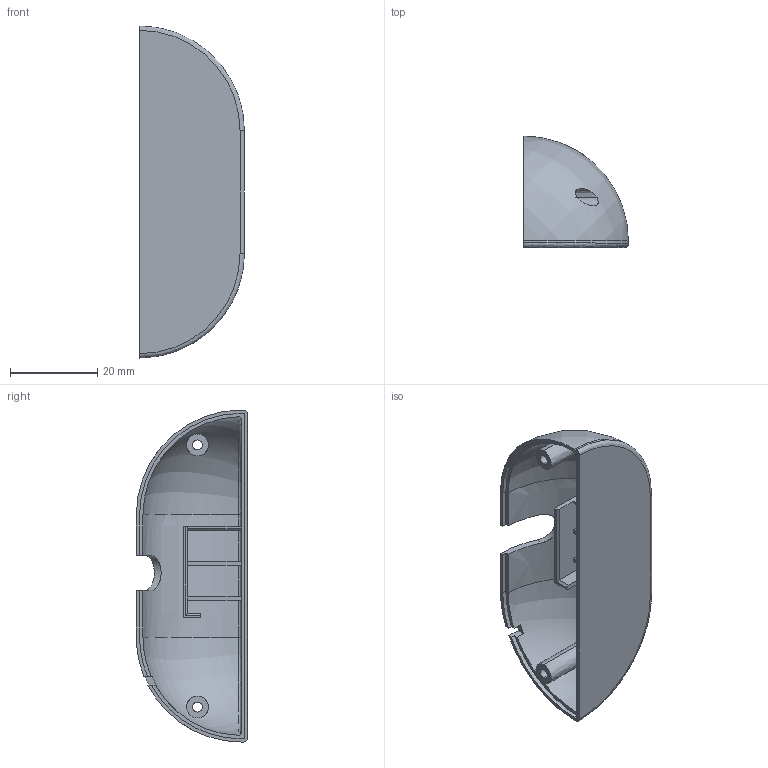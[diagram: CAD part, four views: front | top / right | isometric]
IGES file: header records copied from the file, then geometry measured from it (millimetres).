
Global section: file name: Filename.iges; native system: Open CASCADE 7.5; preprocessor: Open CASCADE IGES processor 7.5; date: 20210414.164134; units: millimetre
Bounding box: 24 x 25.5 x 76 mm (x, y, z)
Surface area: 10480.8 mm2 (no closed solid volume)
Topology: 0 solids, 0 shells, 74 faces, 394 edges, 394 vertices
Faces by surface type: bspline 39, revolution 35
